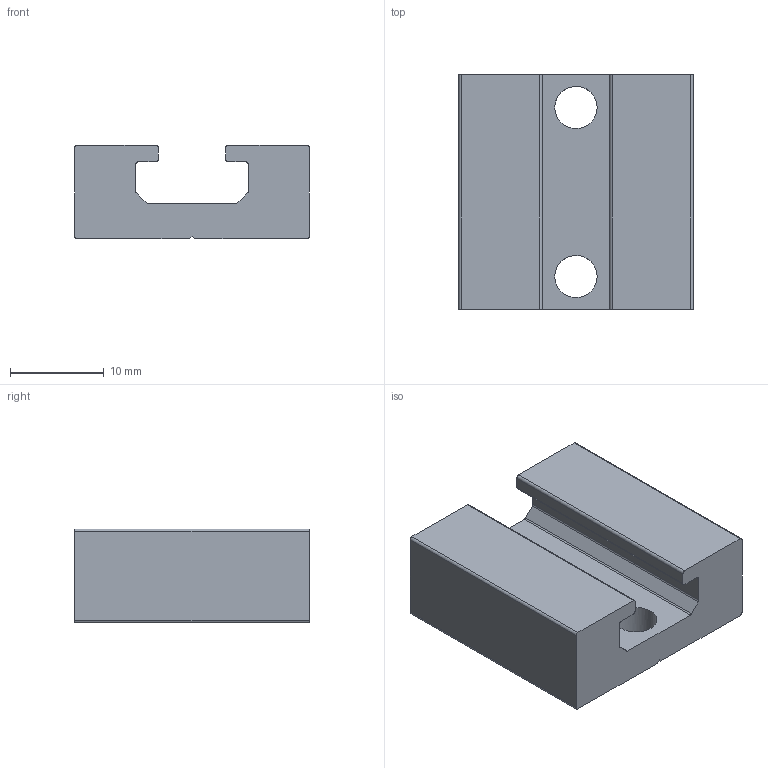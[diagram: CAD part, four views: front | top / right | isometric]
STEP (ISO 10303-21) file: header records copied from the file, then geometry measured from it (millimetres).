
FILE_DESCRIPTION(('STEP AP214'),'1');
FILE_NAME('BB2T-L25.stp','2016-10-18T10:46:11',(' '),(' '),'Spatial InterOp 3D',' ',' ');
FILE_SCHEMA(('automotive_design'));
Length unit declared in the file: millimetre
Products named in the file (1): BB2T-L25
Bounding box: 25 x 25 x 10 mm (x, y, z)
Volume: 4517 mm3; surface area: 2649.8 mm2
Topology: 1 solids, 1 shells, 39 faces, 117 edges, 78 vertices
Faces by surface type: plane 23, cylinder 16
Full cylindrical faces by diameter (mm): 4.5 x2
Entity records: 1641 total; most frequent: DIRECTION 235, CARTESIAN_POINT 229, ORIENTED_EDGE 226, EDGE_CURVE 113, AXIS2_PLACEMENT_3D 82, VERTEX_POINT 76, LINE 71, VECTOR 71
